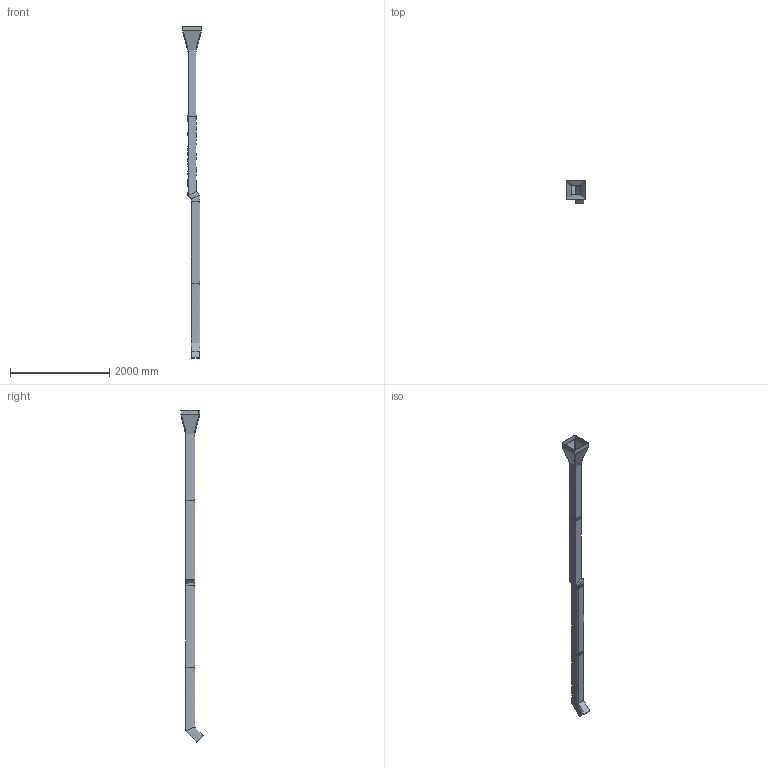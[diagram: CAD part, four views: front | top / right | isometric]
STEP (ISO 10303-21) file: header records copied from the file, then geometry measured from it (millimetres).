
FILE_DESCRIPTION(/* description */ (''),/* implementation_level */ '2;1');
FILE_NAME(/* name */ 'Сборка',/* time_stamp */ '2025-12-09T13:26:44+03:00',/* author */ (''),/* organization */ (''),/* preprocessor_version */ 'ST-DEVELOPER v16.5',/* originating_system */ 'Rhino 7.13',/* authorisation */ '');
FILE_SCHEMA (('CONFIG_CONTROL_DESIGN','CONFIG_CONTROL_DESIGN'));
Length unit declared in the file: millimetre
Products named in the file (1): Document
Bounding box: 380 x 453.64 x 6683.64 mm (x, y, z)
Volume: 3200968.7 mm3; surface area: 10044958.7 mm2
Topology: 8 solids, 10 shells, 119 faces, 270 edges, 147 vertices
Faces by surface type: bspline 111, plane 8
Entity records: 7489 total; most frequent: CARTESIAN_POINT 5989, ORIENTED_EDGE 520, EDGE_CURVE 270, VERTEX_POINT 147, ADVANCED_FACE 119, FACE_OUTER_BOUND 119, EDGE_LOOP 119, B_SPLINE_CURVE_WITH_KNOTS 67
